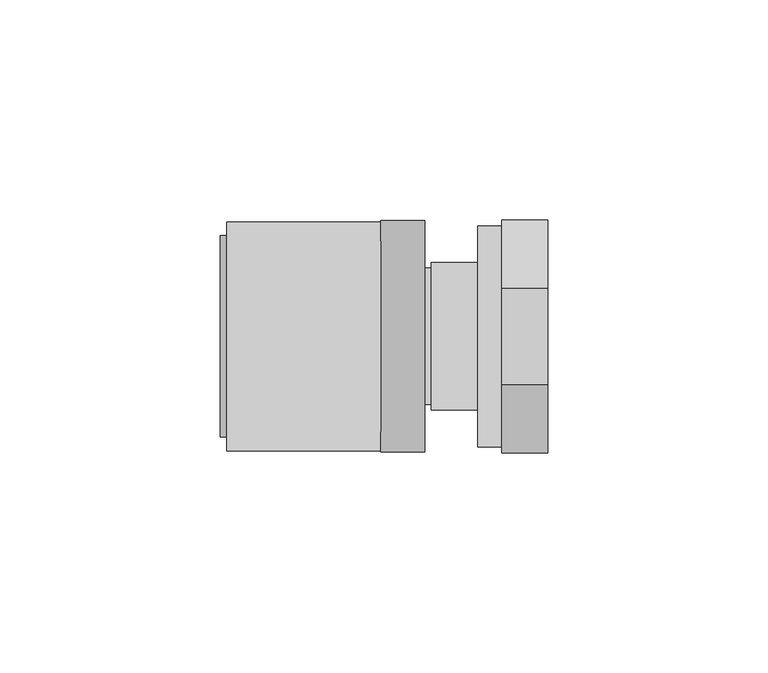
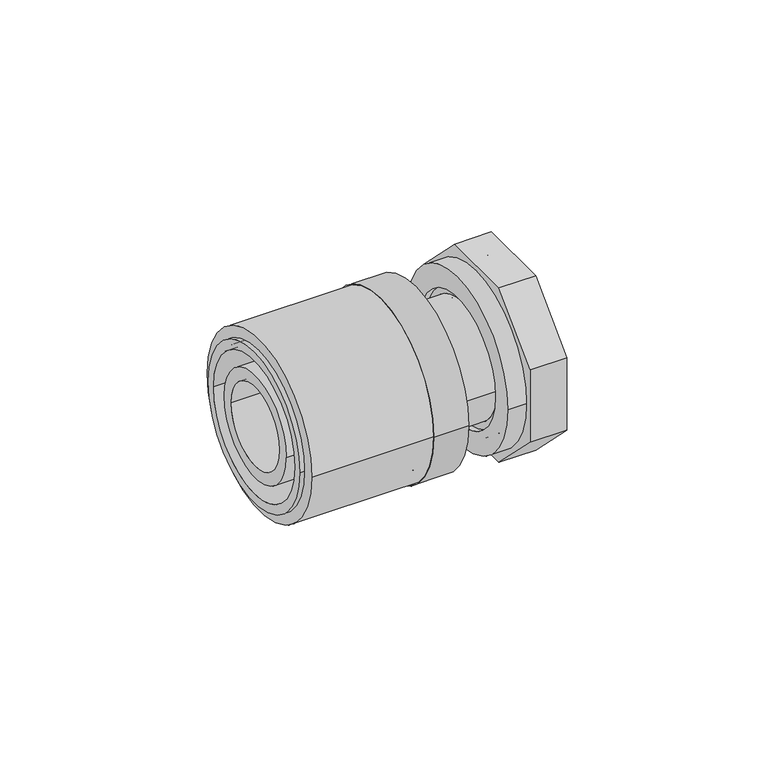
"""IFC4 building model written with IfcOpenShell, lengths in millimetres: pipe fitting geometry, FASTLOC_Adapter with union nut LX : FSL A union nut CZ."""

from ifc_helpers import new_model, si_unit, point, frame, origin, origin_2d, place, context, project, spatial, polyline, circle_curve, trimmed, segment, composite_curve, outline, extrude, source, transform, mapped, element, save
from ifc_brep_helpers import plane_surface, cylinder_surface, revolved_surface, advanced_brep


def pipe_fitting_80b7091b(model_context):
    return source(origin(), model_context, "Body", "SolidModel", [
        extrude(outline(composite_curve([segment(trimmed(circle_curve(origin_2d(), 26.0), [point((26.0, 0.0))], [point((-26.0, 0.0))], False, "CARTESIAN"), True, "CONTINUOUS"), segment(trimmed(circle_curve(origin_2d(), 26.0), [point((-26.0, 0.0))], [point((26.0, 0.0))], False, "CARTESIAN"), True, "CONTINUOUS")], self_intersect=False), holes=[composite_curve([segment(trimmed(circle_curve(origin_2d(), 21.25), [point((21.25, 0.0))], [point((-21.25, 0.0))], True, "CARTESIAN"), True, "CONTINUOUS"), segment(trimmed(circle_curve(origin_2d(), 21.25), [point((-21.25, 0.0))], [point((21.25, 0.0))], True, "CARTESIAN"), True, "CONTINUOUS")], self_intersect=False)]), frame((-46.5, 0.0, 0.0), z_axis=(1.0, 0.0, 0.0), x_axis=(0.0, 1.0, 0.0)), (0.0, 0.0, 1.0), 35.0),
        advanced_brep(
        [(-11.5, -26.3, 0.0), (-11.5, 26.3, 0.0), (-1.5, 26.3, 0.0), (-1.5, -26.3, 0.0), (-48.0, -22.9, 0.0), (-48.0, 22.9, 0.0), (-11.5, 22.9, 0.0), (-11.5, -22.9, 0.0), (-1.5, -20.2, 0.0), (-1.5, 20.2, 0.0), (-48.0, 20.2, 0.0), (-48.0, -20.2, 0.0)],
        [
            (0, 1, circle_curve(frame((-11.5, 0.0, 0.0), z_axis=(1.0, 0.0, 0.0), x_axis=(0.0, 1.0, 0.0)), 26.3)),
            (1, 2),
            (2, 3, circle_curve(frame((-1.5, 0.0, 0.0), z_axis=(-1.0, 0.0, 0.0), x_axis=(0.0, 1.0, 0.0)), 26.3)),
            (3, 0),
            (4, 5, circle_curve(frame((-48.0, 0.0, 0.0), z_axis=(1.0, 0.0, 0.0), x_axis=(0.0, 1.0, 0.0)), 22.9)),
            (5, 6),
            (6, 7, circle_curve(frame((-11.5, 0.0, 0.0), z_axis=(-1.0, 0.0, 0.0), x_axis=(0.0, 1.0, 0.0)), 22.9)),
            (7, 4),
            (8, 9, circle_curve(frame((-1.5, 0.0, 0.0), z_axis=(1.0, 0.0, 0.0), x_axis=(0.0, 1.0, 0.0)), 20.2)),
            (9, 10),
            (10, 11, circle_curve(frame((-48.0, 0.0, 0.0), z_axis=(-1.0, 0.0, 0.0), x_axis=(0.0, 1.0, 0.0)), 20.2)),
            (11, 8),
            (1, 0, circle_curve(frame((-11.5, 0.0, 0.0), z_axis=(1.0, 0.0, 0.0), x_axis=(0.0, -1.0, 0.0)), 26.3)),
            (3, 2, circle_curve(frame((-1.5, 0.0, 0.0), z_axis=(-1.0, 0.0, 0.0), x_axis=(0.0, -1.0, 0.0)), 26.3)),
            (6, 7, circle_curve(frame((-11.5, 0.0, 0.0), z_axis=(1.0, 0.0, 0.0), x_axis=(0.0, -1.0, 0.0)), 22.9)),
            (5, 4, circle_curve(frame((-48.0, 0.0, 0.0), z_axis=(1.0, 0.0, 0.0), x_axis=(0.0, -1.0, 0.0)), 22.9)),
            (10, 11, circle_curve(frame((-48.0, 0.0, 0.0), z_axis=(1.0, 0.0, 0.0), x_axis=(0.0, -1.0, 0.0)), 20.2)),
            (9, 8, circle_curve(frame((-1.5, 0.0, 0.0), z_axis=(1.0, 0.0, 0.0), x_axis=(0.0, -1.0, 0.0)), 20.2)),
        ],
        [
            cylinder_surface(frame((-1.5, 0.0, 0.0), z_axis=(-1.0, 0.0, 0.0), x_axis=(0.0, 1.0, 0.0)), 26.3),
            cylinder_surface(frame((-1.5, 0.0, 0.0), z_axis=(-1.0, 0.0, 0.0), x_axis=(0.0, 1.0, 0.0)), 22.9),
            revolved_surface(polyline([(-48.0, 20.2, 0.0), (-1.5, 20.2, 0.0)]), (-1.5, 0.0, 0.0), (-1.0, 0.0, 0.0)),
            cylinder_surface(frame((-1.5, 0.0, 0.0), z_axis=(-1.0, 0.0, 0.0), x_axis=(0.0, -1.0, 0.0)), 26.3),
            plane_surface(frame((-11.5, 0.0, 0.0), z_axis=(-1.0, 0.0, 0.0), x_axis=(0.0, -1.0, 0.0))),
            cylinder_surface(frame((-1.5, 0.0, 0.0), z_axis=(-1.0, 0.0, 0.0), x_axis=(0.0, -1.0, 0.0)), 22.9),
            plane_surface(frame((-48.0, 0.0, 0.0), z_axis=(-1.0, 0.0, 0.0), x_axis=(0.0, -1.0, 0.0))),
            revolved_surface(polyline([(-48.0, -20.2, 0.0), (-1.5, -20.2, 0.0)]), (-1.5, 0.0, 0.0), (-1.0, 0.0, 0.0)),
            plane_surface(frame((-1.5, 0.0, 0.0), z_axis=(1.0, 0.0, 0.0), x_axis=(0.0, -1.0, 0.0))),
        ],
        [
            (0, [[1, 2, 3, 4]]),
            (1, [[5, 6, 7, 8]]),
            (2, [[9, 10, 11, 12]]),
            (3, [[13, -4, 14, -2]]),
            (4, [[-13, -1], [15, -7]]),
            (5, [[16, -8, -15, -6]]),
            (6, [[-16, -5], [17, -11]]),
            (7, [[18, -12, -17, -10]]),
            (8, [[-14, -3], [-18, -9]]),
        ],
    ),
        advanced_brep(
        [(-11.5, 15.5, 0.0), (-11.5, -15.5, 0.0), (-47.7, -15.5, 0.0), (-47.7, 15.5, 0.0), (-7.8, 17.2, 0.0), (-7.8, -17.2, 0.0), (-11.5, -17.2, 0.0), (-11.5, 17.2, 0.0), (0.0, 15.5, 0.0), (0.0, -15.5, 0.0), (-7.8, -15.5, 0.0), (-7.8, 15.5, 0.0), (-47.7, 11.95, 0.0), (-47.7, -11.95, 0.0), (0.0, -11.95, 0.0), (0.0, 11.95, 0.0)],
        [
            (0, 1, circle_curve(frame((-11.5, 0.0, 0.0), z_axis=(-1.0, 0.0, 0.0), x_axis=(0.0, -1.0, 0.0)), 15.5)),
            (1, 2),
            (2, 3, circle_curve(frame((-47.7, 0.0, 0.0), z_axis=(1.0, 0.0, 0.0), x_axis=(0.0, -1.0, 0.0)), 15.5)),
            (3, 0),
            (4, 5, circle_curve(frame((-7.8, 0.0, 0.0), z_axis=(-1.0, 0.0, 0.0), x_axis=(0.0, -1.0, 0.0)), 17.2)),
            (5, 6),
            (6, 7, circle_curve(frame((-11.5, 0.0, 0.0), z_axis=(1.0, 0.0, 0.0), x_axis=(0.0, -1.0, 0.0)), 17.2)),
            (7, 4),
            (8, 9, circle_curve(frame((0.0, 0.0, 0.0), z_axis=(-1.0, 0.0, 0.0), x_axis=(0.0, -1.0, 0.0)), 15.5)),
            (9, 10),
            (10, 11, circle_curve(frame((-7.8, 0.0, 0.0), z_axis=(1.0, 0.0, 0.0), x_axis=(0.0, -1.0, 0.0)), 15.5)),
            (11, 8),
            (12, 13, circle_curve(frame((-47.7, 0.0, 0.0), z_axis=(-1.0, 0.0, 0.0), x_axis=(0.0, -1.0, 0.0)), 11.95)),
            (13, 14),
            (14, 15, circle_curve(frame((0.0, 0.0, 0.0), z_axis=(1.0, 0.0, 0.0), x_axis=(0.0, -1.0, 0.0)), 11.95)),
            (15, 12),
            (2, 3, circle_curve(frame((-47.7, 0.0, 0.0), z_axis=(-1.0, 0.0, 0.0), x_axis=(0.0, 1.0, 0.0)), 15.5)),
            (12, 13, circle_curve(frame((-47.7, 0.0, 0.0), z_axis=(1.0, 0.0, 0.0), x_axis=(0.0, 1.0, 0.0)), 11.95)),
            (1, 0, circle_curve(frame((-11.5, 0.0, 0.0), z_axis=(-1.0, 0.0, 0.0), x_axis=(0.0, 1.0, 0.0)), 15.5)),
            (6, 7, circle_curve(frame((-11.5, 0.0, 0.0), z_axis=(-1.0, 0.0, 0.0), x_axis=(0.0, 1.0, 0.0)), 17.2)),
            (5, 4, circle_curve(frame((-7.8, 0.0, 0.0), z_axis=(-1.0, 0.0, 0.0), x_axis=(0.0, 1.0, 0.0)), 17.2)),
            (10, 11, circle_curve(frame((-7.8, 0.0, 0.0), z_axis=(-1.0, 0.0, 0.0), x_axis=(0.0, 1.0, 0.0)), 15.5)),
            (9, 8, circle_curve(frame((0.0, 0.0, 0.0), z_axis=(-1.0, 0.0, 0.0), x_axis=(0.0, 1.0, 0.0)), 15.5)),
            (14, 15, circle_curve(frame((0.0, 0.0, 0.0), z_axis=(-1.0, 0.0, 0.0), x_axis=(0.0, 1.0, 0.0)), 11.95)),
        ],
        [
            cylinder_surface(frame((0.0, 0.0, 0.0), z_axis=(1.0, 0.0, 0.0), x_axis=(0.0, -1.0, 0.0)), 15.5),
            cylinder_surface(frame((0.0, 0.0, 0.0), z_axis=(1.0, 0.0, 0.0), x_axis=(0.0, -1.0, 0.0)), 17.2),
            revolved_surface(polyline([(0.0, -11.95, 0.0), (-47.7, -11.95, 0.0)]), (0.0, 0.0, 0.0), (1.0, 0.0, 0.0)),
            plane_surface(frame((-47.7, 0.0, 0.0), z_axis=(-1.0, 0.0, 0.0), x_axis=(0.0, 1.0, 0.0))),
            cylinder_surface(frame((0.0, 0.0, 0.0), z_axis=(1.0, 0.0, 0.0), x_axis=(0.0, 1.0, 0.0)), 15.5),
            plane_surface(frame((-11.5, 0.0, 0.0), z_axis=(-1.0, 0.0, 0.0), x_axis=(0.0, 1.0, 0.0))),
            cylinder_surface(frame((0.0, 0.0, 0.0), z_axis=(1.0, 0.0, 0.0), x_axis=(0.0, 1.0, 0.0)), 17.2),
            plane_surface(frame((-7.8, 0.0, 0.0), z_axis=(1.0, 0.0, 0.0), x_axis=(0.0, 1.0, 0.0))),
            plane_surface(frame((0.0, 0.0, 0.0), z_axis=(1.0, 0.0, 0.0), x_axis=(0.0, 1.0, 0.0))),
            revolved_surface(polyline([(0.0, 11.95, 0.0), (-47.7, 11.95, 0.0)]), (0.0, 0.0, 0.0), (1.0, 0.0, 0.0)),
        ],
        [
            (0, [[1, 2, 3, 4]]),
            (1, [[5, 6, 7, 8]]),
            (0, [[9, 10, 11, 12]]),
            (2, [[13, 14, 15, 16]]),
            (3, [[17, -3], [18, -13]]),
            (4, [[19, -4, -17, -2]]),
            (5, [[20, -7], [-19, -1]]),
            (6, [[21, -8, -20, -6]]),
            (7, [[-21, -5], [22, -11]]),
            (4, [[23, -12, -22, -10]]),
            (8, [[-23, -9], [24, -15]]),
            (9, [[-18, -16, -24, -14]]),
        ],
    ),
        extrude(outline(polyline([(-10.9766594, -26.5), (-26.5, -10.9766594), (-26.5, 10.9766594), (-10.9766594, 26.5), (10.9766594, 26.5), (26.5, 10.9766594), (26.5, -10.9766594), (10.9766594, -26.5), (-10.9766594, -26.5)]), holes=[composite_curve([segment(trimmed(circle_curve(origin_2d(), 22.25), [point((-22.25, 0.0))], [point((22.25, 0.0))], True, "CARTESIAN"), True, "CONTINUOUS"), segment(trimmed(circle_curve(origin_2d(), 22.25), [point((22.25, 0.0))], [point((-22.25, 0.0))], True, "CARTESIAN"), True, "CONTINUOUS")], self_intersect=False)]), frame((16.0, 0.0, 0.0), z_axis=(1.0, 0.0, 0.0), x_axis=(0.0, 1.0, 0.0)), (0.0, 0.0, 1.0), 10.5),
        advanced_brep(
        [(26.5, 25.15, 0.0), (26.5, -25.15, 0.0), (10.5, -25.15, 0.0), (10.5, 25.15, 0.0), (14.0, 22.25, 0.0), (14.0, -22.25, 0.0), (26.5, -22.25, 0.0), (26.5, 22.25, 0.0), (10.5, 18.75, 0.0), (10.5, -18.75, 0.0), (14.0, -18.75, 0.0), (14.0, 18.75, 0.0)],
        [
            (0, 1, circle_curve(frame((26.5, 0.0, 0.0), z_axis=(-1.0, 0.0, 0.0), x_axis=(0.0, -1.0, 0.0)), 25.15)),
            (1, 2),
            (2, 3, circle_curve(frame((10.5, 0.0, 0.0), z_axis=(1.0, 0.0, 0.0), x_axis=(0.0, -1.0, 0.0)), 25.15)),
            (3, 0),
            (4, 5, circle_curve(frame((14.0, 0.0, 0.0), z_axis=(-1.0, 0.0, 0.0), x_axis=(0.0, -1.0, 0.0)), 22.25)),
            (5, 6),
            (6, 7, circle_curve(frame((26.5, 0.0, 0.0), z_axis=(1.0, 0.0, 0.0), x_axis=(0.0, -1.0, 0.0)), 22.25)),
            (7, 4),
            (8, 9, circle_curve(frame((10.5, 0.0, 0.0), z_axis=(-1.0, 0.0, 0.0), x_axis=(0.0, -1.0, 0.0)), 18.75)),
            (9, 10),
            (10, 11, circle_curve(frame((14.0, 0.0, 0.0), z_axis=(1.0, 0.0, 0.0), x_axis=(0.0, -1.0, 0.0)), 18.75)),
            (11, 8),
            (1, 0, circle_curve(frame((26.5, 0.0, 0.0), z_axis=(-1.0, 0.0, 0.0), x_axis=(0.0, 1.0, 0.0)), 25.15)),
            (3, 2, circle_curve(frame((10.5, 0.0, 0.0), z_axis=(1.0, 0.0, 0.0), x_axis=(0.0, 1.0, 0.0)), 25.15)),
            (6, 7, circle_curve(frame((26.5, 0.0, 0.0), z_axis=(-1.0, 0.0, 0.0), x_axis=(0.0, 1.0, 0.0)), 22.25)),
            (5, 4, circle_curve(frame((14.0, 0.0, 0.0), z_axis=(-1.0, 0.0, 0.0), x_axis=(0.0, 1.0, 0.0)), 22.25)),
            (10, 11, circle_curve(frame((14.0, 0.0, 0.0), z_axis=(-1.0, 0.0, 0.0), x_axis=(0.0, 1.0, 0.0)), 18.75)),
            (9, 8, circle_curve(frame((10.5, 0.0, 0.0), z_axis=(-1.0, 0.0, 0.0), x_axis=(0.0, 1.0, 0.0)), 18.75)),
        ],
        [
            cylinder_surface(frame((0.0, 0.0, 0.0), z_axis=(1.0, 0.0, 0.0), x_axis=(0.0, -1.0, 0.0)), 25.15),
            revolved_surface(polyline([(26.5, -22.25, 0.0), (14.0, -22.25, 0.0)]), (0.0, 0.0, 0.0), (1.0, 0.0, 0.0)),
            revolved_surface(polyline([(14.0, -18.75, 0.0), (10.5, -18.75, 0.0)]), (0.0, 0.0, 0.0), (1.0, 0.0, 0.0)),
            cylinder_surface(frame((0.0, 0.0, 0.0), z_axis=(1.0, 0.0, 0.0), x_axis=(0.0, 1.0, 0.0)), 25.15),
            plane_surface(frame((26.5, 0.0, 0.0), z_axis=(1.0, 0.0, 0.0), x_axis=(0.0, 1.0, 0.0))),
            revolved_surface(polyline([(26.5, 22.25, 0.0), (14.0, 22.25, 0.0)]), (0.0, 0.0, 0.0), (1.0, 0.0, 0.0)),
            plane_surface(frame((14.0, 0.0, 0.0), z_axis=(1.0, 0.0, 0.0), x_axis=(0.0, 1.0, 0.0))),
            revolved_surface(polyline([(14.0, 18.75, 0.0), (10.5, 18.75, 0.0)]), (0.0, 0.0, 0.0), (1.0, 0.0, 0.0)),
            plane_surface(frame((10.5, 0.0, 0.0), z_axis=(-1.0, 0.0, 0.0), x_axis=(0.0, 1.0, 0.0))),
        ],
        [
            (0, [[1, 2, 3, 4]]),
            (1, [[5, 6, 7, 8]]),
            (2, [[9, 10, 11, 12]]),
            (3, [[13, -4, 14, -2]]),
            (4, [[-13, -1], [15, -7]]),
            (5, [[16, -8, -15, -6]]),
            (6, [[-16, -5], [17, -11]]),
            (7, [[18, -12, -17, -10]]),
            (8, [[-14, -3], [-18, -9]]),
        ],
    ),
        advanced_brep(
        [(12.0, 16.75, 0.0), (12.0, -16.75, 0.0), (0.0, -16.75, 0.0), (0.0, 16.75, 0.0), (14.0, 20.85, 0.0), (14.0, -20.85, 0.0), (12.0, -20.85, 0.0), (12.0, 20.85, 0.0), (1.4730817, 15.0, 0.0), (1.4730817, -15.0, 0.0), (14.0, -15.0, 0.0), (14.0, 15.0, 0.0), (0.0, 12.8264556, 0.0), (0.0, -12.8264556, 0.0), (1.4730817, -12.8264556, 0.0), (1.4730817, 12.8264556, 0.0)],
        [
            (0, 1, circle_curve(frame((12.0, 0.0, 0.0), z_axis=(-1.0, 0.0, 0.0), x_axis=(0.0, -1.0, 0.0)), 16.75)),
            (1, 2),
            (2, 3, circle_curve(frame((0.0, 0.0, 0.0), z_axis=(1.0, 0.0, 0.0), x_axis=(0.0, -1.0, 0.0)), 16.75)),
            (3, 0),
            (4, 5, circle_curve(frame((14.0, 0.0, 0.0), z_axis=(-1.0, 0.0, 0.0), x_axis=(0.0, -1.0, 0.0)), 20.85)),
            (5, 6),
            (6, 7, circle_curve(frame((12.0, 0.0, 0.0), z_axis=(1.0, 0.0, 0.0), x_axis=(0.0, -1.0, 0.0)), 20.85)),
            (7, 4),
            (8, 9, circle_curve(frame((1.4730817, 0.0, 0.0), z_axis=(-1.0, 0.0, 0.0), x_axis=(0.0, -1.0, 0.0)), 15.0)),
            (9, 10),
            (10, 11, circle_curve(frame((14.0, 0.0, 0.0), z_axis=(1.0, 0.0, 0.0), x_axis=(0.0, -1.0, 0.0)), 15.0)),
            (11, 8),
            (12, 13, circle_curve(frame((0.0, 0.0, 0.0), z_axis=(-1.0, 0.0, 0.0), x_axis=(0.0, -1.0, 0.0)), 12.8264556)),
            (13, 14),
            (14, 15, circle_curve(frame((1.4730817, 0.0, 0.0), z_axis=(1.0, 0.0, 0.0), x_axis=(0.0, -1.0, 0.0)), 12.8264556)),
            (15, 12),
            (2, 3, circle_curve(frame((0.0, 0.0, 0.0), z_axis=(-1.0, 0.0, 0.0), x_axis=(0.0, 1.0, 0.0)), 16.75)),
            (12, 13, circle_curve(frame((0.0, 0.0, 0.0), z_axis=(1.0, 0.0, 0.0), x_axis=(0.0, 1.0, 0.0)), 12.8264556)),
            (1, 0, circle_curve(frame((12.0, 0.0, 0.0), z_axis=(-1.0, 0.0, 0.0), x_axis=(0.0, 1.0, 0.0)), 16.75)),
            (6, 7, circle_curve(frame((12.0, 0.0, 0.0), z_axis=(-1.0, 0.0, 0.0), x_axis=(0.0, 1.0, 0.0)), 20.85)),
            (5, 4, circle_curve(frame((14.0, 0.0, 0.0), z_axis=(-1.0, 0.0, 0.0), x_axis=(0.0, 1.0, 0.0)), 20.85)),
            (10, 11, circle_curve(frame((14.0, 0.0, 0.0), z_axis=(-1.0, 0.0, 0.0), x_axis=(0.0, 1.0, 0.0)), 15.0)),
            (9, 8, circle_curve(frame((1.4730817, 0.0, 0.0), z_axis=(-1.0, 0.0, 0.0), x_axis=(0.0, 1.0, 0.0)), 15.0)),
            (14, 15, circle_curve(frame((1.4730817, 0.0, 0.0), z_axis=(-1.0, 0.0, 0.0), x_axis=(0.0, 1.0, 0.0)), 12.8264556)),
        ],
        [
            cylinder_surface(frame((0.0, 0.0, 0.0), z_axis=(1.0, 0.0, 0.0), x_axis=(0.0, -1.0, 0.0)), 16.75),
            cylinder_surface(frame((0.0, 0.0, 0.0), z_axis=(1.0, 0.0, 0.0), x_axis=(0.0, -1.0, 0.0)), 20.85),
            revolved_surface(polyline([(14.0, -15.0, 0.0), (1.4730817, -15.0, 0.0)]), (0.0, 0.0, 0.0), (1.0, 0.0, 0.0)),
            revolved_surface(polyline([(1.4730817, -12.8264556, 0.0), (0.0, -12.8264556, 0.0)]), (0.0, 0.0, 0.0), (1.0, 0.0, 0.0)),
            plane_surface(frame((0.0, 0.0, 0.0), z_axis=(-1.0, 0.0, 0.0), x_axis=(0.0, 1.0, 0.0))),
            cylinder_surface(frame((0.0, 0.0, 0.0), z_axis=(1.0, 0.0, 0.0), x_axis=(0.0, 1.0, 0.0)), 16.75),
            plane_surface(frame((12.0, 0.0, 0.0), z_axis=(-1.0, 0.0, 0.0), x_axis=(0.0, 1.0, 0.0))),
            cylinder_surface(frame((0.0, 0.0, 0.0), z_axis=(1.0, 0.0, 0.0), x_axis=(0.0, 1.0, 0.0)), 20.85),
            plane_surface(frame((14.0, 0.0, 0.0), z_axis=(1.0, 0.0, 0.0), x_axis=(0.0, 1.0, 0.0))),
            revolved_surface(polyline([(14.0, 15.0, 0.0), (1.4730817, 15.0, 0.0)]), (0.0, 0.0, 0.0), (1.0, 0.0, 0.0)),
            plane_surface(frame((1.4730817, 0.0, 0.0), z_axis=(1.0, 0.0, 0.0), x_axis=(0.0, 1.0, 0.0))),
            revolved_surface(polyline([(1.4730817, 12.8264556, 0.0), (0.0, 12.8264556, 0.0)]), (0.0, 0.0, 0.0), (1.0, 0.0, 0.0)),
        ],
        [
            (0, [[1, 2, 3, 4]]),
            (1, [[5, 6, 7, 8]]),
            (2, [[9, 10, 11, 12]]),
            (3, [[13, 14, 15, 16]]),
            (4, [[17, -3], [18, -13]]),
            (5, [[19, -4, -17, -2]]),
            (6, [[20, -7], [-19, -1]]),
            (7, [[21, -8, -20, -6]]),
            (8, [[-21, -5], [22, -11]]),
            (9, [[23, -12, -22, -10]]),
            (10, [[-23, -9], [24, -15]]),
            (11, [[-18, -16, -24, -14]]),
        ],
    ),
    ])


if __name__ == "__main__":
    model = new_model("IFC4")
    model_context = context("Model", 3, world=origin())
    ifc_project = project(units=[si_unit("LENGTHUNIT", "METRE", prefix="MILLI")], contexts=[model_context])
    site = spatial("IfcSite", under=ifc_project)
    building = spatial("IfcBuilding", under=site)
    placement = place(None, origin())
    pipe_fitting_shape = pipe_fitting_80b7091b(model_context)
    element("IfcPipeFitting", 1, ObjectType="FASTLOC_Adapter with union nut LX : FSL A union nut CZ", at=placement, inside=building, context=model_context, shape_type="MappedRepresentation", body=[
        mapped(pipe_fitting_shape, transform((0.0, 0.0, 0.0), x_axis=(1.0, 0.0, 0.0), y_axis=(0.0, 1.0, 0.0), z_axis=(0.0, 0.0, 1.0))),
    ])
    save(model, "model.ifc")
